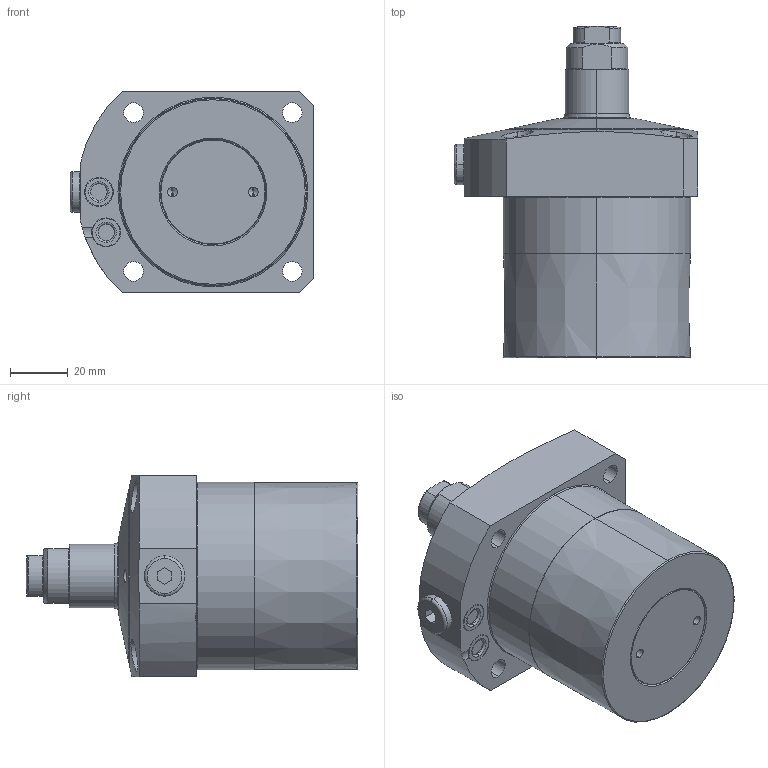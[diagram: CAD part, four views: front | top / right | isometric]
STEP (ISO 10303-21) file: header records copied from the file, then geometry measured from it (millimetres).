
FILE_DESCRIPTION(/* description */ (''),/* implementation_level */ '2;1');
FILE_NAME(/* name */ 'KFSS65.stp',/* time_stamp */ '2026-02-06T09:37:58+08:00',/* author */ (''),/* organization */ (''),/* preprocessor_version */ 'ST-DEVELOPER v16.7',/* originating_system */ 'SIEMENS PLM Software NX 12.0',/* authorisation */ '');
FILE_SCHEMA (('AUTOMOTIVE_DESIGN { 1 0 10303 214 3 1 1 1 }'));
Length unit declared in the file: millimetre
Products named in the file (8): XLC-M12_contactbolt; XLC-M12_o-ring; KFSS65-04; KFSS65-01; KFSS65-02; KFSS65-05; KFSS65-03; LC0653-Cx-E_step
Assembly tree (8 placements, depth 3):
  LC0653-Cx-E_step
    KFSS65-05  x2
    KFSS65-03
      XLC-M12_o-ring
      XLC-M12_contactbolt
    KFSS65-02
    KFSS65-01
    KFSS65-04
Bounding box: 84.5 x 115 x 70 mm (x, y, z)
Volume: 312166.7 mm3; surface area: 37112.2 mm2
Topology: 7 solids, 7 shells, 236 faces, 517 edges, 311 vertices
Faces by surface type: cylinder 77, torus 60, plane 54, cone 43, sphere 2
Entity records: 6750 total; most frequent: CARTESIAN_POINT 1412, DIRECTION 1194, ORIENTED_EDGE 970, AXIS2_PLACEMENT_3D 517, EDGE_CURVE 485, VERTEX_POINT 297, CIRCLE 284, EDGE_LOOP 260
